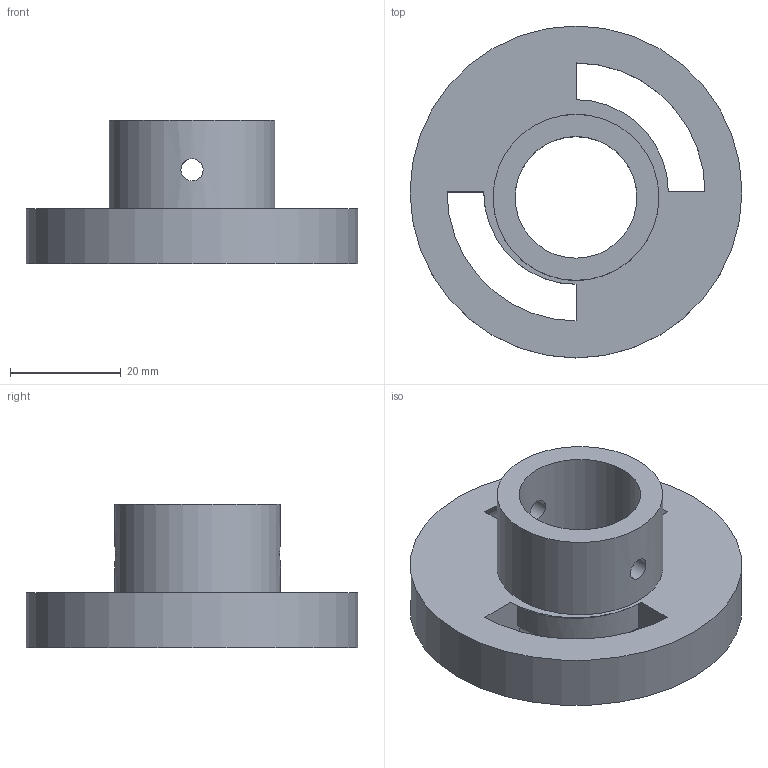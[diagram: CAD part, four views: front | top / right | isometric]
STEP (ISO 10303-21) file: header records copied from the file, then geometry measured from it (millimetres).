
FILE_DESCRIPTION(('FreeCAD Model'),'2;1');
FILE_NAME('E:/TOOLS/Misc/FCall3/CAD/TFT 28 enclosure/Adafruit_2.8__TFT_LCD_Enclosure_with_GoPro_mount/files/socle.step','2018-11-29T14:59:48',('Author'),(''), 'Open CASCADE STEP processor 7.2','FreeCAD','Unknown');
FILE_SCHEMA(('AUTOMOTIVE_DESIGN { 1 0 10303 214 1 1 1 1 }'));
Length unit declared in the file: millimetre
Products named in the file (1): socle
Bounding box: 60 x 60 x 26 mm (x, y, z)
Volume: 23226.1 mm3; surface area: 11231.6 mm2
Topology: 1 solids, 1 shells, 24 faces, 62 edges, 41 vertices
Faces by surface type: plane 9, torus 8, cylinder 7
Full cylindrical faces by diameter (mm): 4 x2, 22 x1, 30 x1, 60 x1
Entity records: 1513 total; most frequent: CARTESIAN_POINT 701, DIRECTION 141, ORIENTED_EDGE 124, EDGE_CURVE 62, AXIS2_PLACEMENT_3D 61, VERTEX_POINT 41, CIRCLE 36, FACE_BOUND 35
